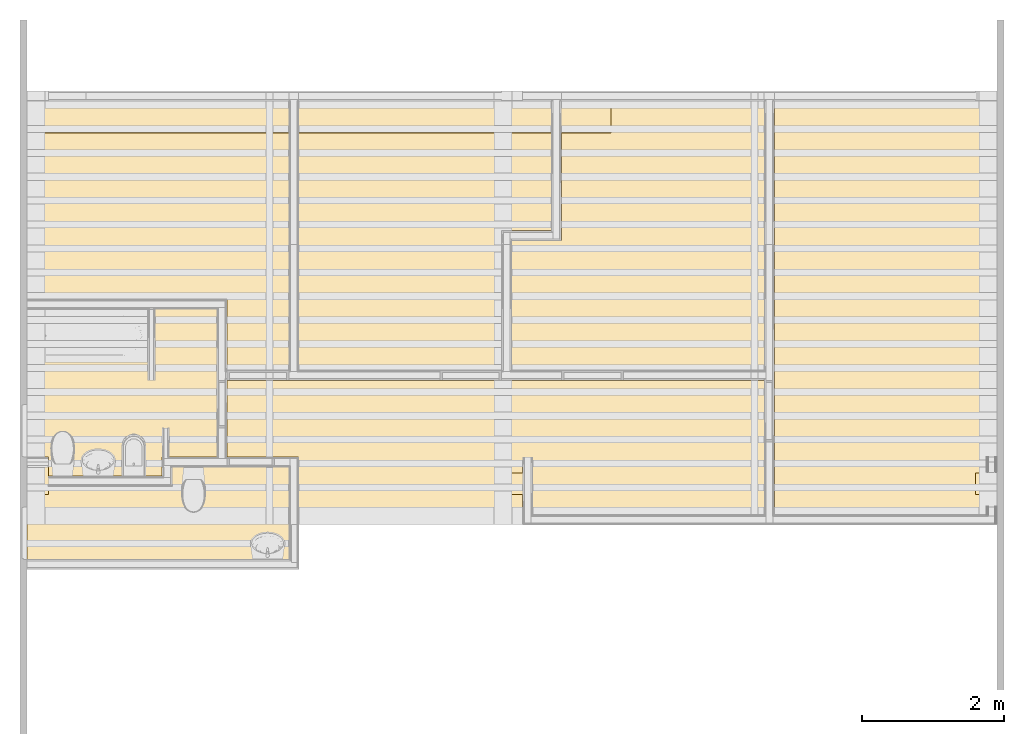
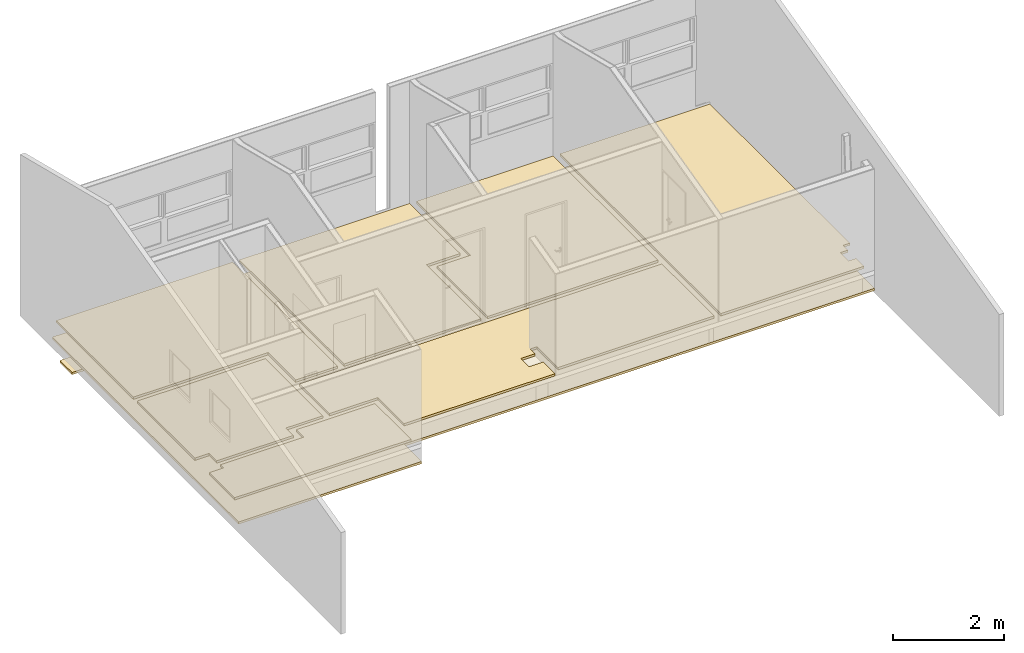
# One storey, part 13 of 13: 9 coverings.
"""IFC2X3 building model written with IfcOpenShell, lengths in millimetres."""

from ifc_helpers import new_model, entity, si_unit, converted_unit, derived_unit, money_unit, direction, frame, origin_with_axes, place, context, subcontext, project, spatial, polyline, outline, extrude, material, type_object, element, save


model = new_model("IFC2X3")

# Units and contexts
model_context = context("Model", 3, precision=0.01, world=origin_with_axes(), true_north=direction((0.293984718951, 0.955810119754)))
body_context = subcontext(model_context, "Body", "Model", "MODEL_VIEW")
ifc_project = project(units=[si_unit("LENGTHUNIT", "METRE", prefix="MILLI"), si_unit("AREAUNIT", "SQUARE_METRE"), si_unit("VOLUMEUNIT", "CUBIC_METRE"), converted_unit("PLANEANGLEUNIT", "DEGREE", entity("IfcPlaneAngleMeasure", 0.0174532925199), si_unit("PLANEANGLEUNIT", "RADIAN"), dimensions=[0, 0, 0, 0, 0, 0, 0]), si_unit("SOLIDANGLEUNIT", "STERADIAN"), money_unit("USD"), converted_unit("TIMEUNIT", "Year", entity("IfcTimeMeasure", 31556926.0), si_unit("TIMEUNIT", "SECOND"), dimensions=[0, 0, 1, 0, 0, 0, 0]), si_unit("MASSUNIT", "GRAM", prefix="KILO"), si_unit("THERMODYNAMICTEMPERATUREUNIT", "DEGREE_CELSIUS"), si_unit("LUMINOUSINTENSITYUNIT", "LUMEN"), si_unit("ENERGYUNIT", "JOULE", prefix="MEGA"), derived_unit("THERMALCONDUCTANCEUNIT", [(si_unit("POWERUNIT", "WATT"), 1), (si_unit("LENGTHUNIT", "METRE"), -1), (si_unit("THERMODYNAMICTEMPERATUREUNIT", "KELVIN"), -1)]), derived_unit("SPECIFICHEATCAPACITYUNIT", [(si_unit("ENERGYUNIT", "JOULE"), 1), (si_unit("MASSUNIT", "GRAM", prefix="KILO"), -1), (si_unit("THERMODYNAMICTEMPERATUREUNIT", "KELVIN"), -1)]), derived_unit("MASSDENSITYUNIT", [(si_unit("MASSUNIT", "GRAM", prefix="KILO"), 1), (si_unit("VOLUMEUNIT", "CUBIC_METRE"), -1)])], contexts=[model_context])

# Site, building, storey
site_placement = place(None, origin_with_axes())
site = spatial("IfcSite", under=ifc_project, at=site_placement, Name="Local", CompositionType="ELEMENT")
building_placement = place(site_placement, origin_with_axes())
building = spatial("IfcBuilding", under=site, at=building_placement, Name="Construção", CompositionType="ELEMENT")
storey_placement = place(building_placement, frame((0.0, 0.0, 3050.0), z_axis=(0.0, 0.0, 1.0), x_axis=(1.0, 0.0, 0.0)))
storey = spatial("IfcBuildingStorey", under=building, at=storey_placement, Name="Primeiro Pavimento", CompositionType="ELEMENT", Elevation=3050.0)

# Coverings
ifc_material = material(Name="GENÉRICO - REV.  INTERNO")
covering_type_1 = type_object("IfcCoveringType", Name="GENÉRICO - REV.  INTERNO 50", PredefinedType="FLOORING")
covering_1_placement = place(storey_placement, frame((7009.64507267, 10020.632176, 0.0), z_axis=(0.0, 0.0, 1.0), x_axis=(1.0, 0.0, 0.0)))
element("IfcCovering", 1, at=covering_1_placement, inside=storey, type_object=covering_type_1, material=ifc_material, Name="Piso", PredefinedType="FLOORING", context=body_context, shape_type="SweptSolid", body=[
    extrude(outline(polyline([(0.0, 0.0), (2810.00001357, 0.0), (2810.00001357, -999.999978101), (3679.99998944, -999.999978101), (3679.99998944, 2790.00002192), (0.0, 2790.00002192), (0.0, 0.0)])), origin_with_axes(), (0.0, 0.0, 1.0), 50.0),
])
covering_2_placement = place(storey_placement, frame((14524.645063, 10845.6321706, 0.0), z_axis=(0.0, 0.0, 1.0), x_axis=(1.0, 0.0, 0.0)))
element("IfcCovering", 2, at=covering_2_placement, inside=storey, type_object=covering_type_1, material=ifc_material, Name="Piso", PredefinedType="FLOORING", context=body_context, shape_type="SweptSolid", body=[
    extrude(outline(polyline([(0.0, 0.0), (-699.999990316, 0.0), (-699.999990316, -1824.99997274), (2854.99999479, -1824.99997274), (2854.99999479, 1965.00002727), (0.0, 1965.00002727), (0.0, 0.0)])), origin_with_axes(), (0.0, 0.0, 1.0), 50.0),
])
covering_3_placement = place(storey_placement, frame((17519.6450727, 12810.6321979, 0.0), z_axis=(0.0, 0.0, 1.0), x_axis=(1.0, 0.0, 0.0)))
element("IfcCovering", 3, at=covering_3_placement, inside=storey, type_object=covering_type_1, material=ifc_material, Name="Piso", PredefinedType="FLOORING", context=body_context, shape_type="SweptSolid", body=[
    extrude(outline(polyline([(0.0, 0.0), (0.0, -5820.0), (2990.00002325, -5820.0), (2990.00002325, -5534.99997139), (2829.99997676, -5534.99997139), (2829.99997676, -5235.00001431), (2990.00002325, -5235.00001431), (2990.00002325, -5060.00003934), (3130.00002057, -5060.00003934), (3130.00002057, 0.0), (0.0, 0.0)])), origin_with_axes(), (0.0, 0.0, 1.0), 50.0),
])
covering_4_placement = place(storey_placement, frame((7009.64507267, 7800.63219788, 0.0), z_axis=(0.0, 0.0, 1.0), x_axis=(1.0, 0.0, 0.0)))
element("IfcCovering", 4, at=covering_4_placement, inside=storey, type_object=covering_type_1, material=ifc_material, Name="Piso", PredefinedType="FLOORING", context=body_context, shape_type="SweptSolid", body=[
    extrude(outline(polyline([(0.0, 0.0), (300.0, 1.16351372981e-10), (300.0, -269.999999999), (1900.00000001, -269.999999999), (1900.00000001, 0.0), (2670.00000001, 0.0), (2670.00000001, 2080.00001565), (0.0, 2080.00001565), (0.0, 0.0)])), origin_with_axes(), (0.0, 0.0, 1.0), 50.0),
])
covering_5_placement = place(storey_placement, frame((9819.64507267, 8880.63224795, 0.0), z_axis=(0.0, 0.0, 1.0), x_axis=(1.0, 0.0, 0.0)))
element("IfcCovering", 5, at=covering_5_placement, inside=storey, type_object=covering_type_1, material=ifc_material, Name="Piso", PredefinedType="FLOORING", context=body_context, shape_type="SweptSolid", body=[
    extrude(outline(polyline([(0.0, 0.0), (0.0, -1080.00006438), (1010.00003934, -1080.00006438), (1010.00003934, -2030.00005007), (4160.00003935, -2030.00005007), (4160.00003935, -1605.00002683), (3859.99999644, -1605.00002683), (3859.99999644, -1305.00009656), (4160.00003935, -1305.00009656), (4160.00003935, -1130.00003398), (4299.99997677, -1130.00003398), (4299.99997677, -1890.00000001), (7560.00000003, -1890.00000001), (7560.00000003, 0.0), (0.0, 0.0)])), origin_with_axes(), (0.0, 0.0, 1.0), 50.0),
])
covering_6_placement = place(storey_placement, frame((10829.6450727, 9020.63219788, 0.0), z_axis=(0.0, 0.0, 1.0), x_axis=(1.0, 0.0, 0.0)))
element("IfcCovering", 6, at=covering_6_placement, inside=storey, type_object=covering_type_1, material=ifc_material, Name="Piso", PredefinedType="FLOORING", context=body_context, shape_type="SweptSolid", body=[
    extrude(outline(polyline([(0.0, 0.0), (2854.9999948, 0.0), (2854.9999948, 1965.00002728), (3554.99998511, 1965.00002728), (3554.99998511, 3790.00000001), (0.0, 3790.00000001), (0.0, 0.0)])), origin_with_axes(), (0.0, 0.0, 1.0), 50.0),
])
covering_7_placement = place(storey_placement, frame((7009.64507267, 6360.63219788, 0.0), z_axis=(0.0, 0.0, 1.0), x_axis=(1.0, 0.0, 0.0)))
element("IfcCovering", 7, at=covering_7_placement, inside=storey, type_object=covering_type_1, material=ifc_material, Name="Piso", PredefinedType="FLOORING", context=body_context, shape_type="SweptSolid", body=[
    extrude(outline(polyline([(0.0, 0.0), (3680.00000001, 0.0), (3680.00000001, 1299.99999762), (2039.99997855, 1299.99999762), (2039.99997855, 1030.00002384), (299.999995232, 1030.00002384), (299.999995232, 915.000023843), (0.0, 915.000023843), (0.0, 0.0)])), origin_with_axes(), (0.0, 0.0, 1.0), 50.0),
])
covering_type_2 = type_object("IfcCoveringType", Name="Concreto Armado - Não Estrutural 50", PredefinedType="CEILING")
covering_8_placement = place(storey_placement, frame((7009.64507267, 6220.63219788, -400.0), z_axis=(0.0, 0.0, 1.0), x_axis=(1.0, 0.0, 0.0)))
element("IfcCovering", 8, at=covering_8_placement, inside=storey, type_object=covering_type_2, Name="Forro-02", PredefinedType="CEILING", context=body_context, shape_type="SweptSolid", body=[
    extrude(outline(polyline([(0.0, 0.0), (3820.0, 0.0), (3820.0, 630.000000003), (13640.0, 630.000000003), (13640.0, 6730.0), (0.0, 6730.0), (0.0, 0.0)])), frame((0.0, 0.0, -50.0), z_axis=(0.0, 0.0, 1.0), x_axis=(1.0, 0.0, 0.0)), (0.0, 0.0, 1.0), 50.0),
])
covering_9_placement = place(storey_placement, frame((7079.64507267, 12360.6321979, -850.0), z_axis=(0.0, 0.0, 1.0), x_axis=(1.0, 0.0, 0.0)))
element("IfcCovering", 9, at=covering_9_placement, inside=storey, type_object=covering_type_2, Name="Forro-01", PredefinedType="CEILING", context=body_context, shape_type="SweptSolid", body=[
    extrude(outline(polyline([(0.0, 0.0), (8139.99997187, 0.0), (8139.99997187, 440.000000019), (0.0, 440.000000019), (0.0, 0.0)])), frame((0.0, 0.0, -50.0), z_axis=(0.0, 0.0, 1.0), x_axis=(1.0, 0.0, 0.0)), (0.0, 0.0, 1.0), 50.0),
])

save(model, "model.ifc")
